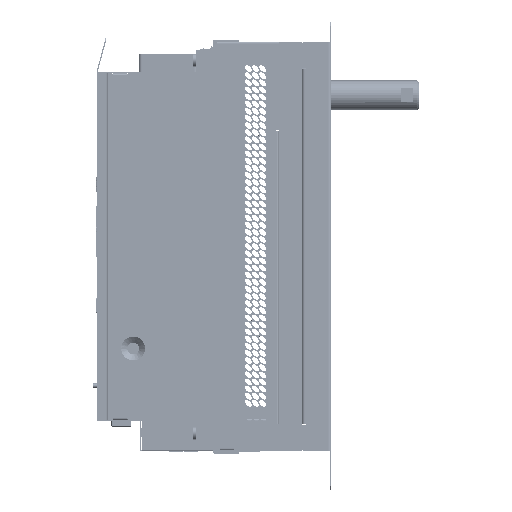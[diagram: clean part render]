
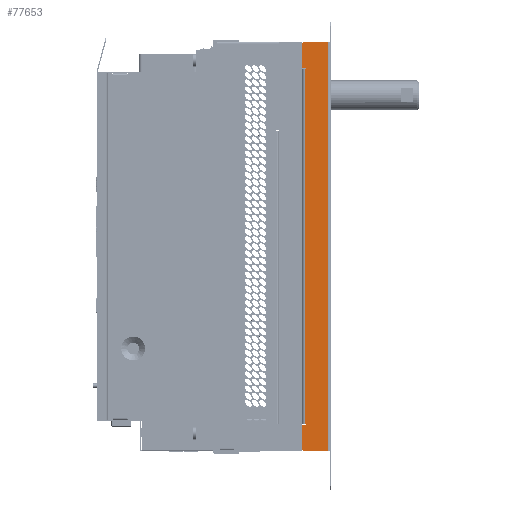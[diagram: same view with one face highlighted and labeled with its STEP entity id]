
A CAD part, left-side view. The second image highlights one B-rep face of the part: STEP entity #77653.
In plain terms, the highlighted planar face has unit normal (-1, 0, 0).
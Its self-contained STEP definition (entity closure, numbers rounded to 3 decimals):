
#62408=PLANE('',#225549);
#77653=ADVANCED_FACE('',(#87876),#62408,.F.);
#87876=FACE_OUTER_BOUND('',#97066,.T.);
#97066=EDGE_LOOP('',(#143738,#143739,#143740,#143741,#143742,#143743,#143744,
#143745,#143746,#143747,#143748,#143749,#143750,#143751));
#108995=LINE('',#282644,#123497);
#108996=LINE('',#282647,#123498);
#108997=LINE('',#282649,#123499);
#108998=LINE('',#282651,#123500);
#108999=LINE('',#282653,#123501);
#109000=LINE('',#282655,#123502);
#109001=LINE('',#282657,#123503);
#109002=LINE('',#282659,#123504);
#109003=LINE('',#282661,#123505);
#109004=LINE('',#282663,#123506);
#109005=LINE('',#282665,#123507);
#109006=LINE('',#282667,#123508);
#109007=LINE('',#282669,#123509);
#109008=LINE('',#282671,#123510);
#123497=VECTOR('',#239317,1.);
#123498=VECTOR('',#239318,1.);
#123499=VECTOR('',#239319,1.);
#123500=VECTOR('',#239320,1.);
#123501=VECTOR('',#239321,1.);
#123502=VECTOR('',#239322,1.);
#123503=VECTOR('',#239323,1.);
#123504=VECTOR('',#239324,1.);
#123505=VECTOR('',#239325,1.);
#123506=VECTOR('',#239326,1.);
#123507=VECTOR('',#239327,1.);
#123508=VECTOR('',#239328,1.);
#123509=VECTOR('',#239329,1.);
#123510=VECTOR('',#239330,1.);
#143738=ORIENTED_EDGE('',*,*,#201375,.T.);
#143739=ORIENTED_EDGE('',*,*,#201376,.T.);
#143740=ORIENTED_EDGE('',*,*,#201377,.T.);
#143741=ORIENTED_EDGE('',*,*,#201378,.F.);
#143742=ORIENTED_EDGE('',*,*,#201379,.T.);
#143743=ORIENTED_EDGE('',*,*,#201380,.T.);
#143744=ORIENTED_EDGE('',*,*,#201381,.T.);
#143745=ORIENTED_EDGE('',*,*,#201382,.F.);
#143746=ORIENTED_EDGE('',*,*,#201383,.F.);
#143747=ORIENTED_EDGE('',*,*,#201384,.F.);
#143748=ORIENTED_EDGE('',*,*,#201385,.T.);
#143749=ORIENTED_EDGE('',*,*,#201386,.F.);
#143750=ORIENTED_EDGE('',*,*,#201387,.F.);
#143751=ORIENTED_EDGE('',*,*,#201388,.F.);
#184840=VERTEX_POINT('',#282645);
#184841=VERTEX_POINT('',#282646);
#184842=VERTEX_POINT('',#282648);
#184843=VERTEX_POINT('',#282650);
#184844=VERTEX_POINT('',#282652);
#184845=VERTEX_POINT('',#282654);
#184846=VERTEX_POINT('',#282656);
#184847=VERTEX_POINT('',#282658);
#184848=VERTEX_POINT('',#282660);
#184849=VERTEX_POINT('',#282662);
#184850=VERTEX_POINT('',#282664);
#184851=VERTEX_POINT('',#282666);
#184852=VERTEX_POINT('',#282668);
#184853=VERTEX_POINT('',#282670);
#201375=EDGE_CURVE('',#184840,#184841,#108995,.T.);
#201376=EDGE_CURVE('',#184841,#184842,#108996,.T.);
#201377=EDGE_CURVE('',#184842,#184843,#108997,.T.);
#201378=EDGE_CURVE('',#184844,#184843,#108998,.T.);
#201379=EDGE_CURVE('',#184844,#184845,#108999,.T.);
#201380=EDGE_CURVE('',#184845,#184846,#109000,.T.);
#201381=EDGE_CURVE('',#184846,#184847,#109001,.T.);
#201382=EDGE_CURVE('',#184848,#184847,#109002,.T.);
#201383=EDGE_CURVE('',#184849,#184848,#109003,.T.);
#201384=EDGE_CURVE('',#184850,#184849,#109004,.T.);
#201385=EDGE_CURVE('',#184850,#184851,#109005,.T.);
#201386=EDGE_CURVE('',#184852,#184851,#109006,.T.);
#201387=EDGE_CURVE('',#184853,#184852,#109007,.T.);
#201388=EDGE_CURVE('',#184840,#184853,#109008,.T.);
#225549=AXIS2_PLACEMENT_3D('',#282672,#239331,#239332);
#239317=DIRECTION('',(0.,0.,-1.));
#239318=DIRECTION('',(0.,-0.707,-0.707));
#239319=DIRECTION('',(0.,-1.,0.));
#239320=DIRECTION('',(0.,0.,-1.));
#239321=DIRECTION('',(0.,1.,0.));
#239322=DIRECTION('',(0.,0.707,-0.707));
#239323=DIRECTION('',(0.,0.,-1.));
#239324=DIRECTION('',(0.,1.,0.));
#239325=DIRECTION('',(0.,0.,1.));
#239326=DIRECTION('',(0.,-1.,0.));
#239327=DIRECTION('',(0.,0.,-1.));
#239328=DIRECTION('',(0.,1.,0.));
#239329=DIRECTION('',(0.,0.,1.));
#239330=DIRECTION('',(0.,-1.,0.));
#239331=DIRECTION('',(1.,0.,0.));
#239332=DIRECTION('',(0.,-1.,0.));
#282644=CARTESIAN_POINT('',(-190.,-19.,0.));
#282645=CARTESIAN_POINT('',(-190.,-19.,22.));
#282646=CARTESIAN_POINT('',(-190.,-19.,1.5));
#282647=CARTESIAN_POINT('',(-190.,-20.5,0.));
#282648=CARTESIAN_POINT('',(-190.,-20.5,0.));
#282649=CARTESIAN_POINT('',(-190.,-19.,0.));
#282650=CARTESIAN_POINT('',(-190.,-41.5,0.));
#282651=CARTESIAN_POINT('',(-190.,-41.5,0.));
#282652=CARTESIAN_POINT('',(-190.,-41.5,345.));
#282653=CARTESIAN_POINT('',(-190.,-19.,345.));
#282654=CARTESIAN_POINT('',(-190.,-20.5,345.));
#282655=CARTESIAN_POINT('',(-190.,-19.,343.5));
#282656=CARTESIAN_POINT('',(-190.,-19.,343.5));
#282657=CARTESIAN_POINT('',(-190.,-19.,0.));
#282658=CARTESIAN_POINT('',(-190.,-19.,323.));
#282659=CARTESIAN_POINT('',(-190.,-19.,323.));
#282660=CARTESIAN_POINT('',(-190.,-22.25,323.));
#282661=CARTESIAN_POINT('',(-190.,-22.25,0.));
#282662=CARTESIAN_POINT('',(-190.,-22.25,322.25));
#282663=CARTESIAN_POINT('',(-190.,-19.,322.25));
#282664=CARTESIAN_POINT('',(-190.,-21.5,322.25));
#282665=CARTESIAN_POINT('',(-190.,-21.5,322.25));
#282666=CARTESIAN_POINT('',(-190.,-21.5,22.75));
#282667=CARTESIAN_POINT('',(-190.,-19.,22.75));
#282668=CARTESIAN_POINT('',(-190.,-22.25,22.75));
#282669=CARTESIAN_POINT('',(-190.,-22.25,0.));
#282670=CARTESIAN_POINT('',(-190.,-22.25,22.));
#282671=CARTESIAN_POINT('',(-190.,-19.,22.));
#282672=CARTESIAN_POINT('',(-190.,-19.,0.));
